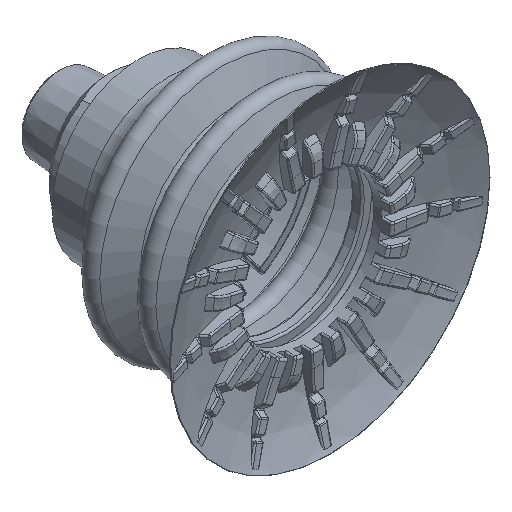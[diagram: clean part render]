
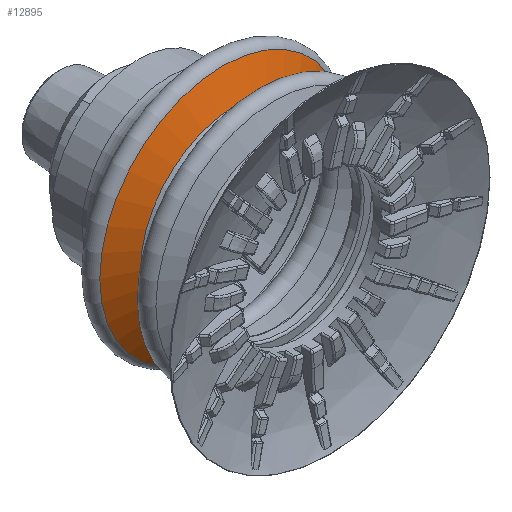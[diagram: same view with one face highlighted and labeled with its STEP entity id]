
A CAD part, isometric view. The second image highlights one B-rep face of the part: STEP entity #12895.
In plain terms, the highlighted conical face has half-angle 64.453 degrees and reference radius 19.4 mm.
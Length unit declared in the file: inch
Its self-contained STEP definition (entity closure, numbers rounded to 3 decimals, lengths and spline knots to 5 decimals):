
#399 = AXIS2_PLACEMENT_3D ( 'NONE', #15434, #59175, #27024 ) ;
#2720 = CIRCLE ( 'NONE', #22426, 0.76376 ) ;
#6812 = EDGE_LOOP ( 'NONE', ( #60288 ) ) ;
#10401 = DIRECTION ( 'NONE',  ( 1., 0., 0. ) ) ;
#12895 = ADVANCED_FACE ( 'NONE', ( #66107, #14728 ), #29413, .T. ) ;
#14728 = FACE_OUTER_BOUND ( 'NONE', #6812, .T. ) ;
#15434 = CARTESIAN_POINT ( 'NONE',  ( 0., 0., -0.78208 ) ) ;
#17081 = DIRECTION ( 'NONE',  ( 0., 0., 1. ) ) ;
#22426 = AXIS2_PLACEMENT_3D ( 'NONE', #61561, #17081, #45820 ) ;
#22811 = AXIS2_PLACEMENT_3D ( 'NONE', #42437, #42795, #10401 ) ;
#27024 = DIRECTION ( 'NONE',  ( 1., 0., 0. ) ) ;
#29413 = CONICAL_SURFACE ( 'NONE', #399, 0.76376, 1.125 ) ;
#30499 = CARTESIAN_POINT ( 'NONE',  ( 0.76376, 0., -0.78208 ) ) ;
#31953 = CARTESIAN_POINT ( 'NONE',  ( 0.9833, 0., -0.67714 ) ) ;
#37443 = EDGE_CURVE ( 'NONE', #42542, #42542, #54276, .T. ) ;
#42437 = CARTESIAN_POINT ( 'NONE',  ( 0., 0., -0.67714 ) ) ;
#42542 = VERTEX_POINT ( 'NONE', #31953 ) ;
#42795 = DIRECTION ( 'NONE',  ( 0., 0., 1. ) ) ;
#45820 = DIRECTION ( 'NONE',  ( 1., 0., 0. ) ) ;
#50691 = EDGE_CURVE ( 'NONE', #53489, #53489, #2720, .T. ) ;
#53489 = VERTEX_POINT ( 'NONE', #30499 ) ;
#54276 = CIRCLE ( 'NONE', #22811, 0.9833 ) ;
#59175 = DIRECTION ( 'NONE',  ( 0., 0., 1. ) ) ;
#60288 = ORIENTED_EDGE ( 'NONE', *, *, #37443, .F. ) ;
#61561 = CARTESIAN_POINT ( 'NONE',  ( 0., 0., -0.78208 ) ) ;
#65050 = ORIENTED_EDGE ( 'NONE', *, *, #50691, .T. ) ;
#66107 = FACE_BOUND ( 'NONE', #70643, .T. ) ;
#70643 = EDGE_LOOP ( 'NONE', ( #65050 ) ) ;
